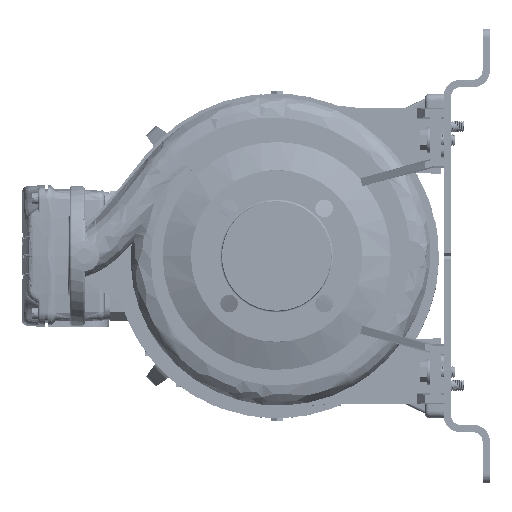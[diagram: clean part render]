
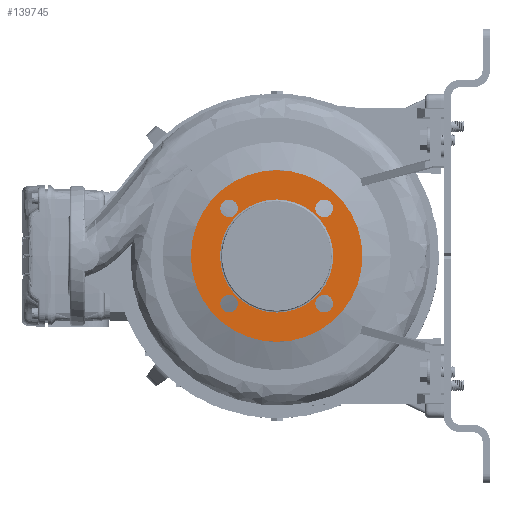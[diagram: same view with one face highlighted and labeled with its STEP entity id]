
A CAD part, left-side view. The second image highlights one B-rep face of the part: STEP entity #139745.
In plain terms, the highlighted planar face has unit normal (-1, 0, 0).
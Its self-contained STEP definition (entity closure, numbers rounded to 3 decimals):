
#68 = AXIS2_PLACEMENT_3D ( 'NONE', #151512, #226077, #59019 ) ;
#170 = AXIS2_PLACEMENT_3D ( 'NONE', #206975, #125593, #3331 ) ;
#896 = DIRECTION ( 'NONE',  ( 1., 0., 0. ) ) ;
#1791 = CIRCLE ( 'NONE', #79629, 61. ) ;
#3331 = DIRECTION ( 'NONE',  ( 0., 1., 0. ) ) ;
#3651 = CIRCLE ( 'NONE', #97125, 9.5 ) ;
#4090 = CIRCLE ( 'NONE', #68, 92.5 ) ;
#4659 = ORIENTED_EDGE ( 'NONE', *, *, #152031, .F. ) ;
#6800 = EDGE_LOOP ( 'NONE', ( #58706, #4659 ) ) ;
#7882 = ORIENTED_EDGE ( 'NONE', *, *, #117944, .F. ) ;
#10270 = AXIS2_PLACEMENT_3D ( 'NONE', #22509, #96879, #113888 ) ;
#10563 = EDGE_CURVE ( 'NONE', #237258, #125874, #4090, .T. ) ;
#12628 = DIRECTION ( 'NONE',  ( -1., 0., 0. ) ) ;
#14315 = CARTESIAN_POINT ( 'NONE',  ( -65.146, 277.612, 318.588 ) ) ;
#15828 = EDGE_CURVE ( 'NONE', #115916, #147848, #107039, .T. ) ;
#19899 = CARTESIAN_POINT ( 'NONE',  ( -65.146, 267.877, 267.323 ) ) ;
#20387 = DIRECTION ( 'NONE',  ( 0., 1., 0. ) ) ;
#21699 = VERTEX_POINT ( 'NONE', #110901 ) ;
#22509 = CARTESIAN_POINT ( 'NONE',  ( -65.146, 165.347, 267.323 ) ) ;
#23069 = ORIENTED_EDGE ( 'NONE', *, *, #132010, .F. ) ;
#24904 = ORIENTED_EDGE ( 'NONE', *, *, #86491, .T. ) ;
#34555 = DIRECTION ( 'NONE',  ( -1., 0., 0. ) ) ;
#34598 = EDGE_LOOP ( 'NONE', ( #58709, #88105 ) ) ;
#36043 = DIRECTION ( 'NONE',  ( 0., 1., 0. ) ) ;
#36998 = VERTEX_POINT ( 'NONE', #14315 ) ;
#38546 = CIRCLE ( 'NONE', #93063, 9.5 ) ;
#38887 = EDGE_LOOP ( 'NONE', ( #222070, #23069 ) ) ;
#39662 = DIRECTION ( 'NONE',  ( -1., 0., 0. ) ) ;
#44908 = VERTEX_POINT ( 'NONE', #231538 ) ;
#45385 = ORIENTED_EDGE ( 'NONE', *, *, #10563, .F. ) ;
#46842 = DIRECTION ( 'NONE',  ( -1., 0., 0. ) ) ;
#48614 = DIRECTION ( 'NONE',  ( -1., 0., 0. ) ) ;
#49680 = VERTEX_POINT ( 'NONE', #113437 ) ;
#51889 = DIRECTION ( 'NONE',  ( 0., -1., 0. ) ) ;
#56509 = VERTEX_POINT ( 'NONE', #180865 ) ;
#58706 = ORIENTED_EDGE ( 'NONE', *, *, #15828, .F. ) ;
#58709 = ORIENTED_EDGE ( 'NONE', *, *, #189660, .F. ) ;
#58792 = AXIS2_PLACEMENT_3D ( 'NONE', #206770, #39662, #114004 ) ;
#59019 = DIRECTION ( 'NONE',  ( 0., 1., 0. ) ) ;
#62809 = AXIS2_PLACEMENT_3D ( 'NONE', #134924, #116661, #175120 ) ;
#63915 = CARTESIAN_POINT ( 'NONE',  ( -65.146, 165.347, 369.854 ) ) ;
#69354 = FACE_OUTER_BOUND ( 'NONE', #69563, .T. ) ;
#69563 = EDGE_LOOP ( 'NONE', ( #45385, #7882 ) ) ;
#77730 = CARTESIAN_POINT ( 'NONE',  ( -65.146, 216.612, 318.588 ) ) ;
#77743 = AXIS2_PLACEMENT_3D ( 'NONE', #233419, #46842, #122288 ) ;
#79177 = EDGE_CURVE ( 'NONE', #168638, #49680, #38546, .T. ) ;
#79629 = AXIS2_PLACEMENT_3D ( 'NONE', #110382, #221439, #36043 ) ;
#85254 = PLANE ( 'NONE',  #177518 ) ;
#86491 = EDGE_CURVE ( 'NONE', #36998, #21699, #1791, .T. ) ;
#88105 = ORIENTED_EDGE ( 'NONE', *, *, #132493, .F. ) ;
#89450 = CARTESIAN_POINT ( 'NONE',  ( -65.146, 165.347, 369.854 ) ) ;
#89854 = VERTEX_POINT ( 'NONE', #190298 ) ;
#93063 = AXIS2_PLACEMENT_3D ( 'NONE', #19899, #34555, #112516 ) ;
#94598 = CARTESIAN_POINT ( 'NONE',  ( -65.146, 124.112, 318.588 ) ) ;
#96879 = DIRECTION ( 'NONE',  ( -1., 0., 0. ) ) ;
#97125 = AXIS2_PLACEMENT_3D ( 'NONE', #201819, #126174, #51889 ) ;
#99230 = DIRECTION ( 'NONE',  ( 0., 0., -1. ) ) ;
#100263 = AXIS2_PLACEMENT_3D ( 'NONE', #77730, #896, #20387 ) ;
#101965 = CARTESIAN_POINT ( 'NONE',  ( -65.146, 155.847, 369.854 ) ) ;
#102710 = CARTESIAN_POINT ( 'NONE',  ( -65.146, 174.847, 369.854 ) ) ;
#107039 = CIRCLE ( 'NONE', #220037, 9.5 ) ;
#107073 = FACE_BOUND ( 'NONE', #235095, .T. ) ;
#110382 = CARTESIAN_POINT ( 'NONE',  ( -65.146, 216.612, 318.588 ) ) ;
#110698 = ORIENTED_EDGE ( 'NONE', *, *, #79177, .F. ) ;
#110901 = CARTESIAN_POINT ( 'NONE',  ( -65.146, 155.612, 318.588 ) ) ;
#112516 = DIRECTION ( 'NONE',  ( 0., 0., 1. ) ) ;
#113437 = CARTESIAN_POINT ( 'NONE',  ( -65.146, 277.377, 267.323 ) ) ;
#113888 = DIRECTION ( 'NONE',  ( 0., 1., 0. ) ) ;
#114004 = DIRECTION ( 'NONE',  ( 0., -1., 0. ) ) ;
#115916 = VERTEX_POINT ( 'NONE', #101965 ) ;
#116231 = EDGE_CURVE ( 'NONE', #49680, #168638, #151547, .T. ) ;
#116462 = ORIENTED_EDGE ( 'NONE', *, *, #116231, .F. ) ;
#116661 = DIRECTION ( 'NONE',  ( 1., 0., 0. ) ) ;
#116987 = CIRCLE ( 'NONE', #58792, 9.5 ) ;
#117327 = CIRCLE ( 'NONE', #62809, 92.5 ) ;
#117944 = EDGE_CURVE ( 'NONE', #125874, #237258, #117327, .T. ) ;
#119177 = CARTESIAN_POINT ( 'NONE',  ( -65.146, 258.377, 267.323 ) ) ;
#122288 = DIRECTION ( 'NONE',  ( 0., 0., 1. ) ) ;
#125593 = DIRECTION ( 'NONE',  ( -1., 0., 0. ) ) ;
#125874 = VERTEX_POINT ( 'NONE', #94598 ) ;
#126174 = DIRECTION ( 'NONE',  ( -1., 0., 0. ) ) ;
#127524 = CIRCLE ( 'NONE', #100263, 61. ) ;
#127741 = FACE_BOUND ( 'NONE', #38887, .T. ) ;
#130427 = EDGE_CURVE ( 'NONE', #21699, #36998, #127524, .T. ) ;
#132010 = EDGE_CURVE ( 'NONE', #44908, #89854, #3651, .T. ) ;
#132493 = EDGE_CURVE ( 'NONE', #225042, #56509, #155825, .T. ) ;
#134924 = CARTESIAN_POINT ( 'NONE',  ( -65.146, 216.612, 318.588 ) ) ;
#138638 = CIRCLE ( 'NONE', #10270, 9.5 ) ;
#139745 = ADVANCED_FACE ( 'NONE', ( #107073, #236422, #163104, #127741, #202176, #69354 ), #85254, .T. ) ;
#147848 = VERTEX_POINT ( 'NONE', #102710 ) ;
#151117 = AXIS2_PLACEMENT_3D ( 'NONE', #63915, #172346, #99230 ) ;
#151512 = CARTESIAN_POINT ( 'NONE',  ( -65.146, 216.612, 318.588 ) ) ;
#151547 = CIRCLE ( 'NONE', #77743, 9.5 ) ;
#152031 = EDGE_CURVE ( 'NONE', #147848, #115916, #240797, .T. ) ;
#155825 = CIRCLE ( 'NONE', #170, 9.5 ) ;
#163104 = FACE_BOUND ( 'NONE', #6800, .T. ) ;
#167771 = EDGE_CURVE ( 'NONE', #89854, #44908, #116987, .T. ) ;
#168638 = VERTEX_POINT ( 'NONE', #119177 ) ;
#172346 = DIRECTION ( 'NONE',  ( -1., 0., 0. ) ) ;
#175120 = DIRECTION ( 'NONE',  ( 0., 1., 0. ) ) ;
#177518 = AXIS2_PLACEMENT_3D ( 'NONE', #215673, #48614, #197338 ) ;
#180865 = CARTESIAN_POINT ( 'NONE',  ( -65.146, 155.847, 267.323 ) ) ;
#189660 = EDGE_CURVE ( 'NONE', #56509, #225042, #138638, .T. ) ;
#190298 = CARTESIAN_POINT ( 'NONE',  ( -65.146, 258.377, 369.854 ) ) ;
#191390 = ORIENTED_EDGE ( 'NONE', *, *, #130427, .T. ) ;
#193655 = CARTESIAN_POINT ( 'NONE',  ( -65.146, 309.112, 318.588 ) ) ;
#197338 = DIRECTION ( 'NONE',  ( 0., -1., 0. ) ) ;
#199337 = EDGE_LOOP ( 'NONE', ( #24904, #191390 ) ) ;
#201819 = CARTESIAN_POINT ( 'NONE',  ( -65.146, 267.877, 369.854 ) ) ;
#202176 = FACE_BOUND ( 'NONE', #199337, .T. ) ;
#206770 = CARTESIAN_POINT ( 'NONE',  ( -65.146, 267.877, 369.854 ) ) ;
#206975 = CARTESIAN_POINT ( 'NONE',  ( -65.146, 165.347, 267.323 ) ) ;
#215673 = CARTESIAN_POINT ( 'NONE',  ( -65.146, 277.612, 318.588 ) ) ;
#220037 = AXIS2_PLACEMENT_3D ( 'NONE', #89450, #12628, #238227 ) ;
#221439 = DIRECTION ( 'NONE',  ( 1., 0., 0. ) ) ;
#222070 = ORIENTED_EDGE ( 'NONE', *, *, #167771, .F. ) ;
#225042 = VERTEX_POINT ( 'NONE', #226903 ) ;
#226077 = DIRECTION ( 'NONE',  ( 1., 0., 0. ) ) ;
#226903 = CARTESIAN_POINT ( 'NONE',  ( -65.146, 174.847, 267.323 ) ) ;
#231538 = CARTESIAN_POINT ( 'NONE',  ( -65.146, 277.377, 369.854 ) ) ;
#233419 = CARTESIAN_POINT ( 'NONE',  ( -65.146, 267.877, 267.323 ) ) ;
#235095 = EDGE_LOOP ( 'NONE', ( #110698, #116462 ) ) ;
#236422 = FACE_BOUND ( 'NONE', #34598, .T. ) ;
#237258 = VERTEX_POINT ( 'NONE', #193655 ) ;
#238227 = DIRECTION ( 'NONE',  ( 0., 0., -1. ) ) ;
#240797 = CIRCLE ( 'NONE', #151117, 9.5 ) ;
